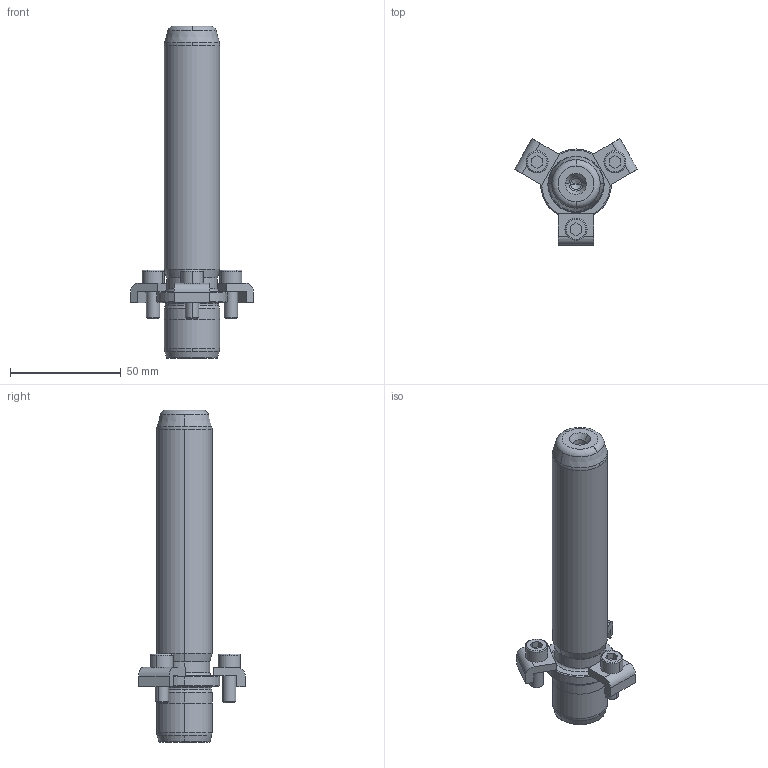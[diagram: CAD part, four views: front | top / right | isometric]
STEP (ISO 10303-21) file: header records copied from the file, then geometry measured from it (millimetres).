
FILE_DESCRIPTION((''),'2;1');
FILE_NAME('P21_025_125.stp','2008-12-23T09:50:02',(''),(''),'Mechanical Desktop 2009','Mechanical Desktop 2009',', , ');
FILE_SCHEMA(('CONFIG_CONTROL_DESIGN'));
Length unit declared in the file: millimetre
Products named in the file (2): Product; blmdl1
Assembly tree (1 placements, depth 2):
  Product
    blmdl1
Bounding box: 55.58 x 48.13 x 150 mm (x, y, z)
Volume: 78028.6 mm3; surface area: 18413.4 mm2
Topology: 7 solids, 7 shells, 163 faces, 417 edges, 269 vertices
Faces by surface type: plane 59, cylinder 44, cone 32, torus 14, bspline 14
Entity records: 5679 total; most frequent: CARTESIAN_POINT 1511, DIRECTION 914, ORIENTED_EDGE 826, EDGE_CURVE 413, AXIS2_PLACEMENT_3D 362, VERTEX_POINT 269, CIRCLE 211, VECTOR 190
